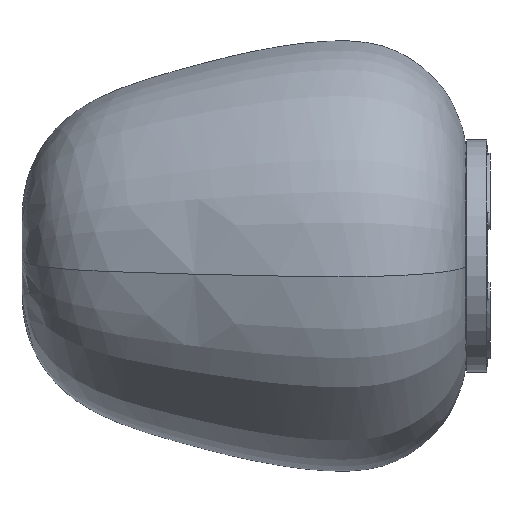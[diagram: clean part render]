
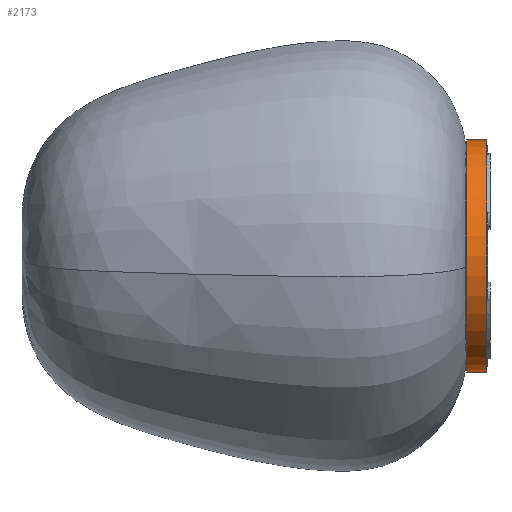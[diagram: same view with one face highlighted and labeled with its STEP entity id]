
A CAD part, left-side view. The second image highlights one B-rep face of the part: STEP entity #2173.
In plain terms, the highlighted cylindrical face has radius 52 mm (diameter 104 mm), a partial arc.
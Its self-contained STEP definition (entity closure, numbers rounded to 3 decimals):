
#193 = VERTEX_POINT ( 'NONE', #1152 ) ;
#208 = CIRCLE ( 'NONE', #1889, 52. ) ;
#243 = ORIENTED_EDGE ( 'NONE', *, *, #1109, .T. ) ;
#274 = VERTEX_POINT ( 'NONE', #2031 ) ;
#331 = CARTESIAN_POINT ( 'NONE',  ( 115., 29.5, 15.77 ) ) ;
#351 = FACE_OUTER_BOUND ( 'NONE', #616, .T. ) ;
#369 = CARTESIAN_POINT ( 'NONE',  ( 115., 29.5, 15.77 ) ) ;
#531 = DIRECTION ( 'NONE',  ( 0., 1., 0. ) ) ;
#563 = DIRECTION ( 'NONE',  ( 0., 1., 0. ) ) ;
#598 = CIRCLE ( 'NONE', #2646, 52. ) ;
#616 = EDGE_LOOP ( 'NONE', ( #1642, #243, #2242, #2910 ) ) ;
#717 = EDGE_CURVE ( 'NONE', #1274, #274, #1463, .T. ) ;
#859 = DIRECTION ( 'NONE',  ( 0., 0., 1. ) ) ;
#892 = EDGE_CURVE ( 'NONE', #193, #1103, #2863, .T. ) ;
#1007 = CARTESIAN_POINT ( 'NONE',  ( 115., 29.5, -36.23 ) ) ;
#1103 = VERTEX_POINT ( 'NONE', #1985 ) ;
#1109 = EDGE_CURVE ( 'NONE', #1274, #193, #598, .T. ) ;
#1152 = CARTESIAN_POINT ( 'NONE',  ( 115., 29.5, 67.77 ) ) ;
#1274 = VERTEX_POINT ( 'NONE', #1007 ) ;
#1304 = DIRECTION ( 'NONE',  ( 0., 1., 0. ) ) ;
#1460 = VECTOR ( 'NONE', #531, 1000. ) ;
#1463 = LINE ( 'NONE', #2579, #1460 ) ;
#1478 = DIRECTION ( 'NONE',  ( 0., 0., 1. ) ) ;
#1642 = ORIENTED_EDGE ( 'NONE', *, *, #717, .F. ) ;
#1658 = VECTOR ( 'NONE', #1304, 1000. ) ;
#1695 = AXIS2_PLACEMENT_3D ( 'NONE', #369, #563, #1478 ) ;
#1889 = AXIS2_PLACEMENT_3D ( 'NONE', #2271, #2537, #2944 ) ;
#1956 = CYLINDRICAL_SURFACE ( 'NONE', #1695, 52. ) ;
#1985 = CARTESIAN_POINT ( 'NONE',  ( 115., 38.5, 67.77 ) ) ;
#2026 = EDGE_CURVE ( 'NONE', #274, #1103, #208, .T. ) ;
#2031 = CARTESIAN_POINT ( 'NONE',  ( 115., 38.5, -36.23 ) ) ;
#2173 = ADVANCED_FACE ( 'NONE', ( #351 ), #1956, .T. ) ;
#2177 = CARTESIAN_POINT ( 'NONE',  ( 115., 29.5, 67.77 ) ) ;
#2242 = ORIENTED_EDGE ( 'NONE', *, *, #892, .T. ) ;
#2271 = CARTESIAN_POINT ( 'NONE',  ( 115., 38.5, 15.77 ) ) ;
#2537 = DIRECTION ( 'NONE',  ( 0., 1., 0. ) ) ;
#2579 = CARTESIAN_POINT ( 'NONE',  ( 115., 29.5, -36.23 ) ) ;
#2646 = AXIS2_PLACEMENT_3D ( 'NONE', #331, #2850, #859 ) ;
#2850 = DIRECTION ( 'NONE',  ( 0., 1., 0. ) ) ;
#2863 = LINE ( 'NONE', #2177, #1658 ) ;
#2910 = ORIENTED_EDGE ( 'NONE', *, *, #2026, .F. ) ;
#2944 = DIRECTION ( 'NONE',  ( 0., 0., 1. ) ) ;
